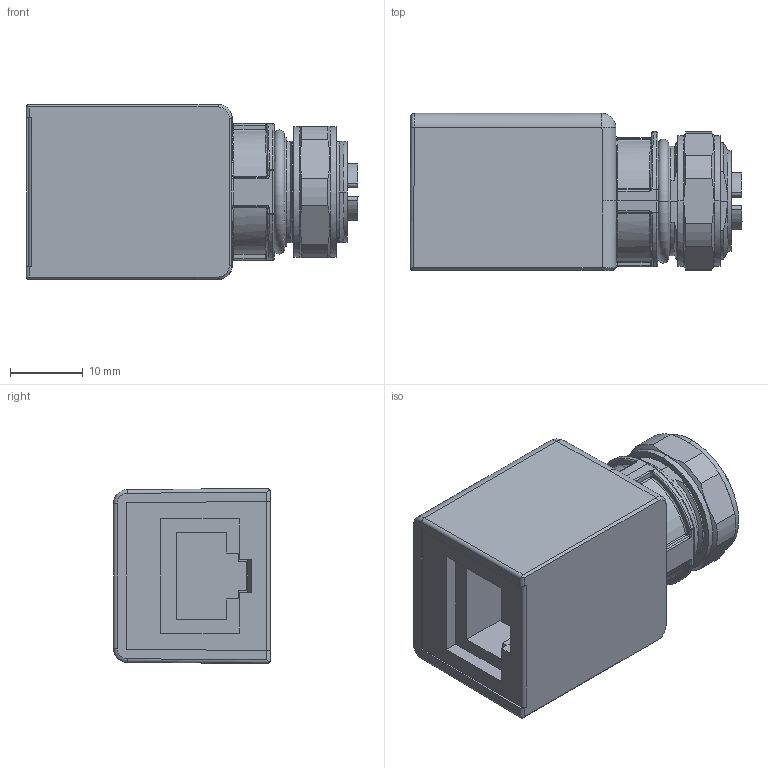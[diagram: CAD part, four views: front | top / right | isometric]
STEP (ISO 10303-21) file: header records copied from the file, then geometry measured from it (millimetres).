
FILE_DESCRIPTION (( 'STEP AP203' ), '1' );
FILE_NAME ('FKSDX_RJ45SF.step', '2017-10-17T19:05:42', ( '' ), ( '' ), 'SwSTEP 2.0', 'SolidWorks 2015', '' );
FILE_SCHEMA (( 'CONFIG_CONTROL_DESIGN' ));
Length unit declared in the file: millimetre
Products named in the file (2): FKSDX_RJ45SF
Bounding box: 45.5 x 21.5 x 24 mm (x, y, z)
Volume: 15963.8 mm3; surface area: 6486.1 mm2
Topology: 1 solids, 1 shells, 627 faces, 1526 edges, 923 vertices
Faces by surface type: cylinder 282, plane 157, torus 82, bspline 67, sphere 20, cone 19
Entity records: 25345 total; most frequent: CARTESIAN_POINT 11809, ORIENTED_EDGE 3038, DIRECTION 2383, EDGE_CURVE 1519, VERTEX_POINT 923, AXIS2_PLACEMENT_3D 881, EDGE_LOOP 660, ADVANCED_FACE 627
